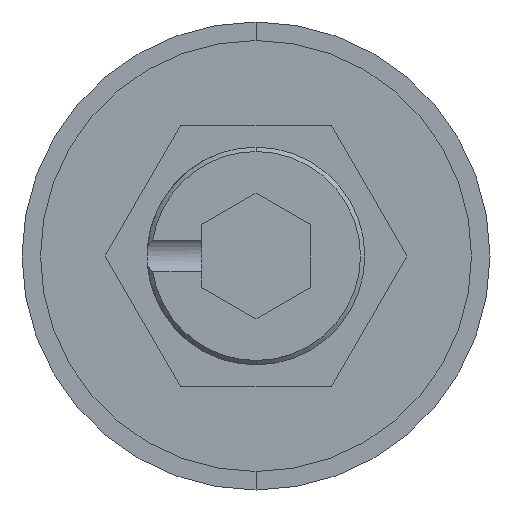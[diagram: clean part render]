
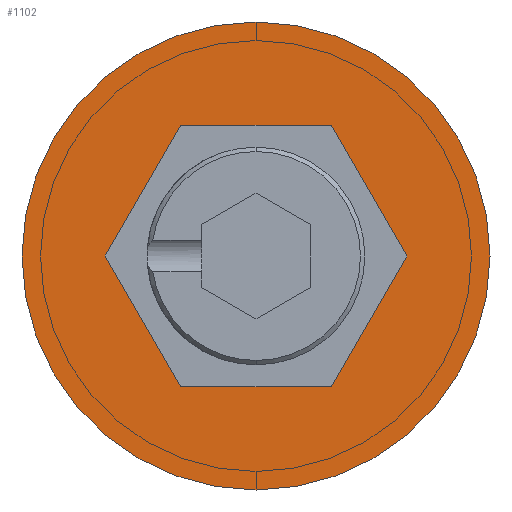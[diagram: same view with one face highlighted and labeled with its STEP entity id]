
A CAD part, front view. The second image highlights one B-rep face of the part: STEP entity #1102.
In plain terms, the highlighted planar face has unit normal (0, -1, 0).
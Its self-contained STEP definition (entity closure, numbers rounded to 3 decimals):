
#20 = VERTEX_POINT ( 'NONE', #1891 ) ;
#78 = VECTOR ( 'NONE', #408, 1000. ) ;
#107 = CARTESIAN_POINT ( 'NONE',  ( -3.464, 0., 6. ) ) ;
#108 = EDGE_CURVE ( 'NONE', #1896, #2124, #1482, .T. ) ;
#129 = LINE ( 'NONE', #2102, #78 ) ;
#185 = CARTESIAN_POINT ( 'NONE',  ( -3.464, 0., -6. ) ) ;
#203 = EDGE_LOOP ( 'NONE', ( #976, #1756, #1356, #1845, #1926, #734 ) ) ;
#205 = VERTEX_POINT ( 'NONE', #221 ) ;
#211 = CARTESIAN_POINT ( 'NONE',  ( 0., 0., 0. ) ) ;
#221 = CARTESIAN_POINT ( 'NONE',  ( 3.464, 0., 6. ) ) ;
#279 = LINE ( 'NONE', #2166, #2015 ) ;
#294 = EDGE_CURVE ( 'NONE', #1624, #205, #129, .T. ) ;
#301 = AXIS2_PLACEMENT_3D ( 'NONE', #1789, #603, #1619 ) ;
#317 = DIRECTION ( 'NONE',  ( 0., -1., 0. ) ) ;
#345 = DIRECTION ( 'NONE',  ( 0., -1., 0. ) ) ;
#354 = DIRECTION ( 'NONE',  ( 0., 0., -1. ) ) ;
#397 = EDGE_CURVE ( 'NONE', #2124, #677, #1617, .T. ) ;
#408 = DIRECTION ( 'NONE',  ( -0.5, 0., 0.866 ) ) ;
#447 = VERTEX_POINT ( 'NONE', #1375 ) ;
#458 = VECTOR ( 'NONE', #1787, 1000. ) ;
#477 = EDGE_CURVE ( 'NONE', #20, #1312, #664, .T. ) ;
#504 = LINE ( 'NONE', #1969, #458 ) ;
#603 = DIRECTION ( 'NONE',  ( 0., -1., 0. ) ) ;
#631 = CARTESIAN_POINT ( 'NONE',  ( 0., 0., 0. ) ) ;
#645 = PLANE ( 'NONE',  #704 ) ;
#664 = CIRCLE ( 'NONE', #301, 10.75 ) ;
#669 = EDGE_LOOP ( 'NONE', ( #1542, #1802 ) ) ;
#677 = VERTEX_POINT ( 'NONE', #795 ) ;
#704 = AXIS2_PLACEMENT_3D ( 'NONE', #631, #317, #1239 ) ;
#734 = ORIENTED_EDGE ( 'NONE', *, *, #1770, .F. ) ;
#787 = EDGE_CURVE ( 'NONE', #447, #1896, #1445, .T. ) ;
#795 = CARTESIAN_POINT ( 'NONE',  ( 3.464, 0., -6. ) ) ;
#812 = CIRCLE ( 'NONE', #835, 10.75 ) ;
#835 = AXIS2_PLACEMENT_3D ( 'NONE', #211, #345, #354 ) ;
#942 = CARTESIAN_POINT ( 'NONE',  ( 0., 0., 10.75 ) ) ;
#943 = EDGE_CURVE ( 'NONE', #205, #447, #279, .T. ) ;
#976 = ORIENTED_EDGE ( 'NONE', *, *, #397, .F. ) ;
#1074 = VECTOR ( 'NONE', #1184, 1000. ) ;
#1102 = ADVANCED_FACE ( 'NONE', ( #1687, #2098 ), #645, .T. ) ;
#1121 = EDGE_CURVE ( 'NONE', #1312, #20, #812, .T. ) ;
#1184 = DIRECTION ( 'NONE',  ( 0.5, 0., -0.866 ) ) ;
#1195 = CARTESIAN_POINT ( 'NONE',  ( -6.928, 0., 0. ) ) ;
#1239 = DIRECTION ( 'NONE',  ( 0., 0., -1. ) ) ;
#1242 = CARTESIAN_POINT ( 'NONE',  ( 6.928, 0., 0. ) ) ;
#1312 = VERTEX_POINT ( 'NONE', #942 ) ;
#1356 = ORIENTED_EDGE ( 'NONE', *, *, #787, .F. ) ;
#1375 = CARTESIAN_POINT ( 'NONE',  ( -3.464, 0., 6. ) ) ;
#1396 = CARTESIAN_POINT ( 'NONE',  ( -6.928, 0., 0. ) ) ;
#1445 = LINE ( 'NONE', #107, #1491 ) ;
#1482 = LINE ( 'NONE', #1195, #1074 ) ;
#1491 = VECTOR ( 'NONE', #1754, 1000. ) ;
#1533 = DIRECTION ( 'NONE',  ( 1., 0., 0. ) ) ;
#1542 = ORIENTED_EDGE ( 'NONE', *, *, #477, .T. ) ;
#1560 = VECTOR ( 'NONE', #1533, 1000. ) ;
#1608 = CARTESIAN_POINT ( 'NONE',  ( -3.464, 0., -6. ) ) ;
#1617 = LINE ( 'NONE', #185, #1560 ) ;
#1619 = DIRECTION ( 'NONE',  ( 0., 0., -1. ) ) ;
#1624 = VERTEX_POINT ( 'NONE', #1242 ) ;
#1687 = FACE_BOUND ( 'NONE', #203, .T. ) ;
#1754 = DIRECTION ( 'NONE',  ( -0.5, 0., -0.866 ) ) ;
#1756 = ORIENTED_EDGE ( 'NONE', *, *, #108, .F. ) ;
#1770 = EDGE_CURVE ( 'NONE', #677, #1624, #504, .T. ) ;
#1787 = DIRECTION ( 'NONE',  ( 0.5, 0., 0.866 ) ) ;
#1789 = CARTESIAN_POINT ( 'NONE',  ( 0., 0., 0. ) ) ;
#1802 = ORIENTED_EDGE ( 'NONE', *, *, #1121, .T. ) ;
#1845 = ORIENTED_EDGE ( 'NONE', *, *, #943, .F. ) ;
#1891 = CARTESIAN_POINT ( 'NONE',  ( 0., 0., -10.75 ) ) ;
#1896 = VERTEX_POINT ( 'NONE', #1396 ) ;
#1926 = ORIENTED_EDGE ( 'NONE', *, *, #294, .F. ) ;
#1969 = CARTESIAN_POINT ( 'NONE',  ( 3.464, 0., -6. ) ) ;
#2015 = VECTOR ( 'NONE', #2158, 1000. ) ;
#2098 = FACE_OUTER_BOUND ( 'NONE', #669, .T. ) ;
#2102 = CARTESIAN_POINT ( 'NONE',  ( 6.928, 0., 0. ) ) ;
#2124 = VERTEX_POINT ( 'NONE', #1608 ) ;
#2158 = DIRECTION ( 'NONE',  ( -1., 0., 0. ) ) ;
#2166 = CARTESIAN_POINT ( 'NONE',  ( 3.464, 0., 6. ) ) ;
